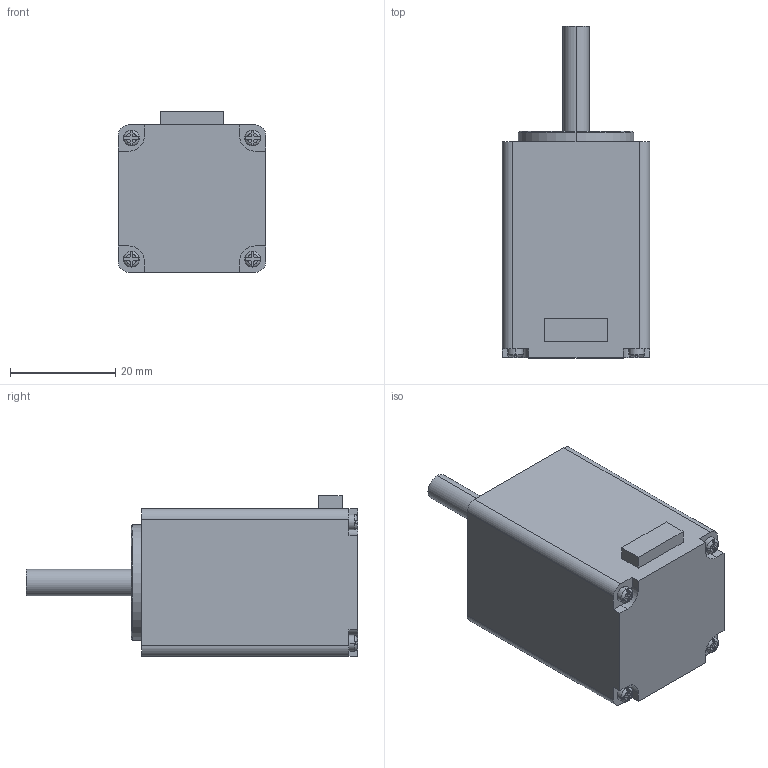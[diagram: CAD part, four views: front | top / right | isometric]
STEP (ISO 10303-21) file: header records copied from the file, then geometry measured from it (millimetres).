
FILE_DESCRIPTION (( 'STEP AP214' ), '1' );
FILE_NAME ('28A01.STEP', '2020-12-14T05:25:41', ( '' ), ( '' ), 'SwSTEP 2.0', 'SolidWorks 2020', '' );
FILE_SCHEMA (( 'AUTOMOTIVE_DESIGN' ));
Length unit declared in the file: millimetre
Products named in the file (3): 28A01; 蹟佪
Assembly tree (5 placements, depth 2):
  28A01
    28A01
    蹟佪  x4
Bounding box: 28 x 63 x 30.5 mm (x, y, z)
Volume: 32620.4 mm3; surface area: 7817.2 mm2
Topology: 6 solids, 6 shells, 139 faces, 362 edges, 238 vertices
Faces by surface type: plane 83, cylinder 46, torus 8, cone 2
Entity records: 2511 total; most frequent: CARTESIAN_POINT 433, DIRECTION 412, ORIENTED_EDGE 376, EDGE_CURVE 188, AXIS2_PLACEMENT_3D 151, VERTEX_POINT 124, VECTOR 110, LINE 110
